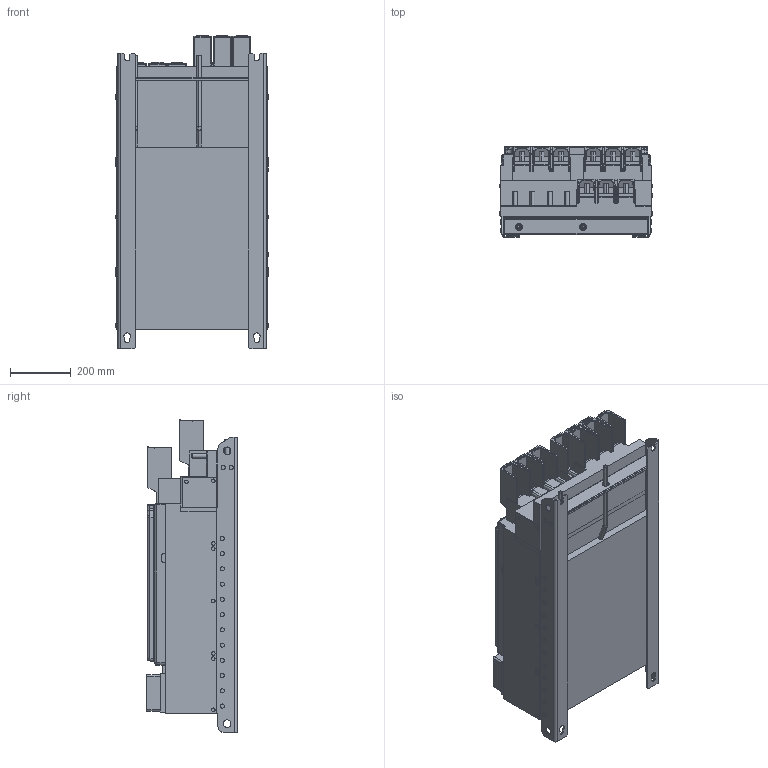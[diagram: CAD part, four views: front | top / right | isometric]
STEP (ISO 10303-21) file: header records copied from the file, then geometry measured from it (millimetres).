
FILE_DESCRIPTION (( 'STEP AP214' ), '1' );
FILE_NAME ('F6-9TW0-P150.STEP', '2022-12-21T09:34:51', ( '' ), ( '' ), 'SwSTEP 2.0', 'SolidWorks 2022', '' );
FILE_SCHEMA (( 'AUTOMOTIVE_DESIGN' ));
Length unit declared in the file: millimetre
Products named in the file (12): Kundenmodell^10054881_000; 10049764_000_Kundenmodell; 10068273_000_Kundenmodell; 10059764_000_Blindabdeckung (Kundenmodell); 10059666_000_Kundenmodell (ohne BW); F6-9TW0-P150; Kundenmodell^10059764_000; Kundenmodell^10068273_000; 10051076_000_Kundenmodell; 10054881_000_Deckel (Kundenmodell); Kundenmodell^10049764_000; Kundenmodell^10051076_000_Kundenmodell mit Geberbuchsen
Assembly tree (11 placements, depth 4):
  F6-9TW0-P150
    10059666_000_Kundenmodell (ohne BW)
      10068273_000_Kundenmodell
        Kundenmodell^10068273_000
    10049764_000_Kundenmodell
      Kundenmodell^10049764_000
    10051076_000_Kundenmodell
      10059764_000_Blindabdeckung (Kundenmodell)
        Kundenmodell^10059764_000
      Kundenmodell^10051076_000_Kundenmodell mit Geberbuchsen
    10054881_000_Deckel (Kundenmodell)
      Kundenmodell^10054881_000
Bounding box: 502.5 x 296.5 x 1028.38 mm (x, y, z)
Volume: 93109992.7 mm3; surface area: 4325163.3 mm2
Topology: 5 solids, 5 shells, 2691 faces, 6965 edges, 4356 vertices
Faces by surface type: plane 1251, cylinder 889, bspline 258, cone 120, sphere 92, torus 81
Entity records: 89943 total; most frequent: CARTESIAN_POINT 25816, ORIENTED_EDGE 13762, DIRECTION 12701, EDGE_CURVE 6881, VERTEX_POINT 4356, AXIS2_PLACEMENT_3D 4265, VECTOR 4171, LINE 4171
